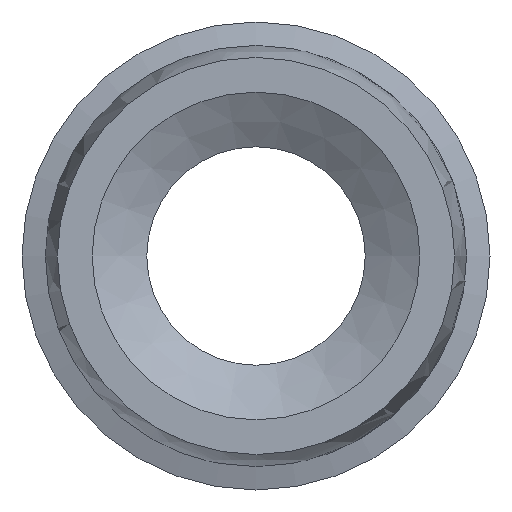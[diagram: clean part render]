
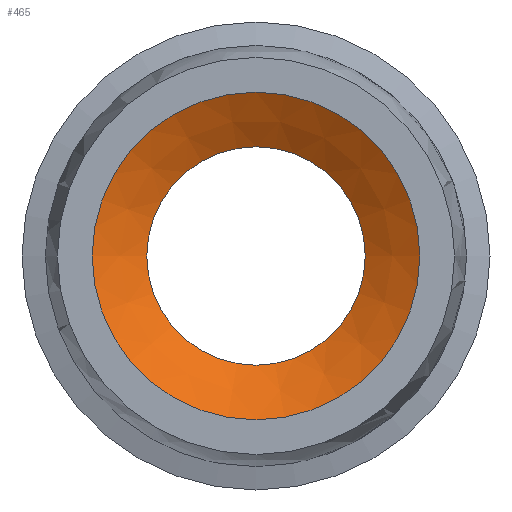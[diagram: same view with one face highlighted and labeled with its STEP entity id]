
A CAD part, front view. The second image highlights one B-rep face of the part: STEP entity #465.
In plain terms, the highlighted conical face has half-angle 60 degrees and reference radius 4.375 mm.
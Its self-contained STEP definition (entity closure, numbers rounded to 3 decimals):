
#52=FACE_OUTER_BOUND('',#84,.T.);
#84=EDGE_LOOP('',(#384,#385,#386,#387,#388,#389));
#102=LINE('',#843,#120);
#120=VECTOR('',#689,4.375);
#134=CIRCLE('',#502,3.5);
#135=CIRCLE('',#503,3.5);
#164=CIRCLE('',#545,5.25);
#165=CIRCLE('',#546,5.25);
#185=VERTEX_POINT('',#757);
#186=VERTEX_POINT('',#758);
#215=VERTEX_POINT('',#837);
#216=VERTEX_POINT('',#839);
#237=EDGE_CURVE('',#185,#186,#134,.T.);
#239=EDGE_CURVE('',#186,#185,#135,.T.);
#275=EDGE_CURVE('',#216,#215,#164,.T.);
#276=EDGE_CURVE('',#215,#216,#165,.T.);
#277=EDGE_CURVE('',#215,#186,#102,.T.);
#384=ORIENTED_EDGE('',*,*,#275,.T.);
#385=ORIENTED_EDGE('',*,*,#277,.T.);
#386=ORIENTED_EDGE('',*,*,#237,.F.);
#387=ORIENTED_EDGE('',*,*,#239,.F.);
#388=ORIENTED_EDGE('',*,*,#277,.F.);
#389=ORIENTED_EDGE('',*,*,#276,.T.);
#444=CONICAL_SURFACE('',#547,4.375,1.047);
#465=ADVANCED_FACE('',(#52),#444,.F.);
#502=AXIS2_PLACEMENT_3D('',#759,#589,#590);
#503=AXIS2_PLACEMENT_3D('',#761,#592,#593);
#545=AXIS2_PLACEMENT_3D('',#840,#683,#684);
#546=AXIS2_PLACEMENT_3D('',#841,#685,#686);
#547=AXIS2_PLACEMENT_3D('',#842,#687,#688);
#589=DIRECTION('center_axis',(0.,-1.,0.));
#590=DIRECTION('ref_axis',(1.,0.,0.));
#592=DIRECTION('center_axis',(0.,-1.,0.));
#593=DIRECTION('ref_axis',(1.,0.,0.));
#683=DIRECTION('center_axis',(0.,-1.,0.));
#684=DIRECTION('ref_axis',(1.,0.,0.));
#685=DIRECTION('center_axis',(0.,-1.,0.));
#686=DIRECTION('ref_axis',(1.,0.,0.));
#687=DIRECTION('center_axis',(0.,-1.,0.));
#688=DIRECTION('ref_axis',(1.,0.,0.));
#689=DIRECTION('',(0.866,0.5,0.));
#757=CARTESIAN_POINT('',(3.5,32.01,0.));
#758=CARTESIAN_POINT('',(-3.5,32.01,0.));
#759=CARTESIAN_POINT('Origin',(0.,32.01,0.));
#761=CARTESIAN_POINT('Origin',(0.,32.01,0.));
#837=CARTESIAN_POINT('',(-5.25,31.,0.));
#839=CARTESIAN_POINT('',(5.25,31.,0.));
#840=CARTESIAN_POINT('Origin',(0.,31.,0.));
#841=CARTESIAN_POINT('Origin',(0.,31.,0.));
#842=CARTESIAN_POINT('Origin',(0.,31.505,0.));
#843=CARTESIAN_POINT('',(-4.375,31.505,0.));
